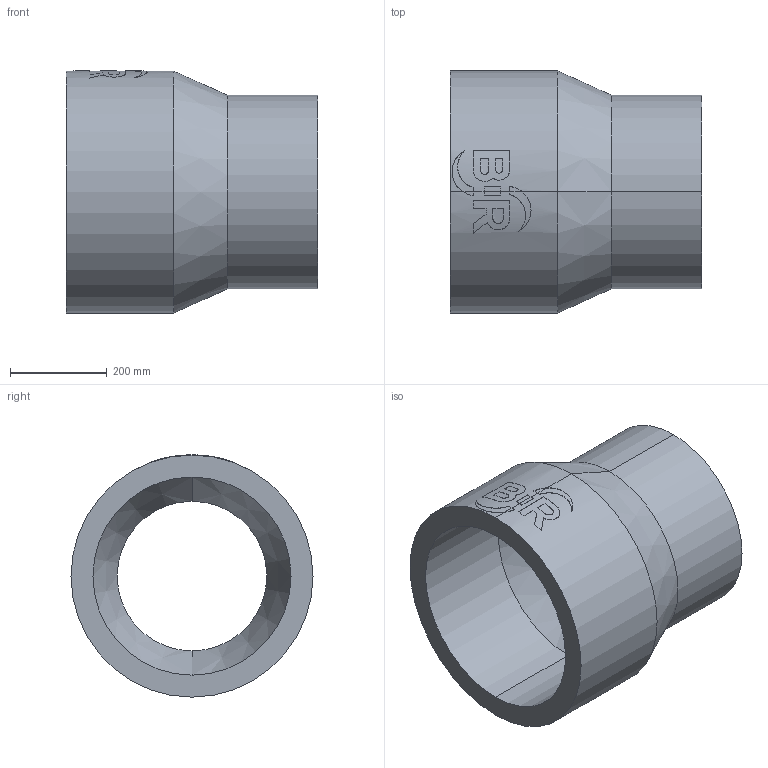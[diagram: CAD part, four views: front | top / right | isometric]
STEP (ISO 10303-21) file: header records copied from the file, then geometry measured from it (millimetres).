
FILE_DESCRIPTION (( 'STEP AP214' ), '1' );
FILE_NAME ('2323272515.STEP', '2018-07-20T10:14:43', ( '' ), ( '' ), 'SwSTEP 2.0', 'SolidWorks 2017', '' );
FILE_SCHEMA (( 'AUTOMOTIVE_DESIGN' ));
Length unit declared in the file: millimetre
Products named in the file (1): 2323272515
Bounding box: 520 x 500 x 500.46 mm (x, y, z)
Volume: 30812408.8 mm3; surface area: 1473265.6 mm2
Topology: 1 solids, 1 shells, 63 faces, 160 edges, 104 vertices
Faces by surface type: cylinder 31, plane 28, cone 4
Entity records: 3508 total; most frequent: CARTESIAN_POINT 1299, ORIENTED_EDGE 320, DIRECTION 296, EDGE_CURVE 160, AXIS2_PLACEMENT_3D 112, VERTEX_POINT 104, VECTOR 72, LINE 72
